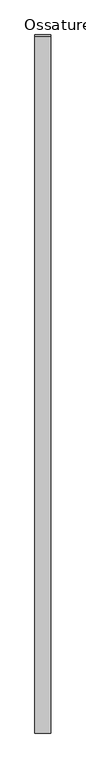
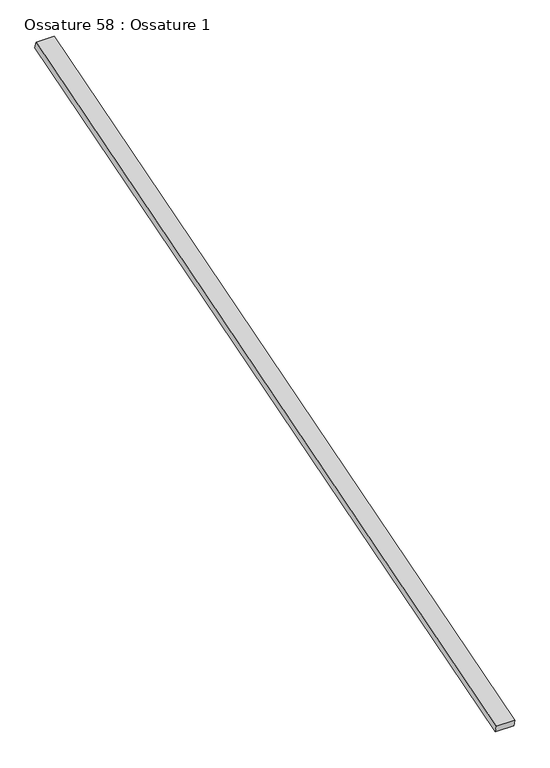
"""IFC4 building model written with IfcOpenShell, lengths in millimetres: beam geometry, Ossature 58 : Ossature 1."""

from ifc_helpers import new_model, si_unit, frame, origin, place, context, project, spatial, polyline, outline, extrude, source, transform, mapped, element, save


def ossature_58_ossature_1_92e3f3c0(model_context):
    return source(origin(), model_context, "Body", "SweptSolid", [
        extrude(outline(polyline([(0.0, 0.0), (0.0, -4543.0299679), (-100.0, -4543.0299679), (-100.0, 0.0), (0.0, 0.0)])), frame((14108.0466393, -833.3913565, 8153.6336115), z_axis=(0.0, -0.28734788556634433, 0.9578262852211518), x_axis=(-1.0, 0.0, 0.0)), (0.0, 0.0, 1.0), 40.0),
    ])


if __name__ == "__main__":
    model = new_model("IFC4")
    model_context = context("Model", 3, world=origin())
    ifc_project = project(units=[si_unit("LENGTHUNIT", "METRE", prefix="MILLI")], contexts=[model_context])
    site = spatial("IfcSite", under=ifc_project)
    building = spatial("IfcBuilding", under=site)
    placement = place(None, origin())
    ossature_58_ossature_1_shape = ossature_58_ossature_1_92e3f3c0(model_context)
    element("IfcBeam", 1, ObjectType="Ossature 58 : Ossature 1", at=placement, inside=building, context=model_context, shape_type="MappedRepresentation", body=[
        mapped(ossature_58_ossature_1_shape, transform((0.0, 0.0, 0.0), x_axis=(1.0, 0.0, 0.0), y_axis=(0.0, 1.0, 0.0), z_axis=(0.0, 0.0, 1.0))),
    ])
    save(model, "model.ifc")
